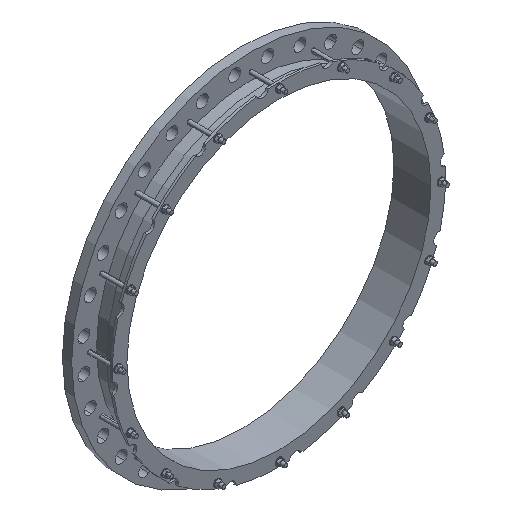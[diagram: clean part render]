
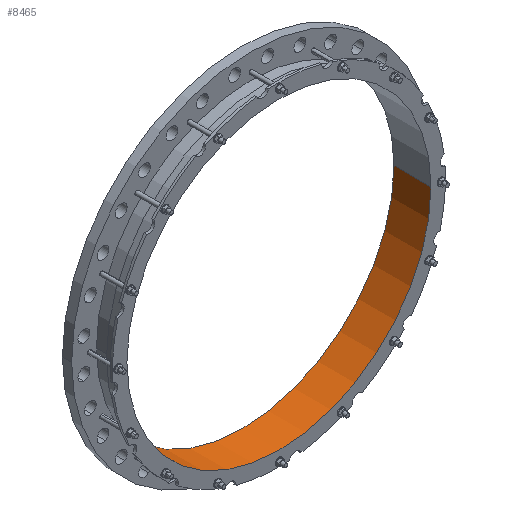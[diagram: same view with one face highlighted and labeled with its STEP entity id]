
A CAD part, isometric view. The second image highlights one B-rep face of the part: STEP entity #8465.
In plain terms, the highlighted cylindrical face has radius 628.75 mm (diameter 1257.5 mm), a partial arc.
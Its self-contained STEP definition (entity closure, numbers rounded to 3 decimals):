
#7=CARTESIAN_POINT('',(0.,38.,0.));
#8=DIRECTION('',(0.,1.,0.));
#9=DIRECTION('',(1.,0.,0.));
#10=AXIS2_PLACEMENT_3D('',#7,#8,#9);
#3501=CARTESIAN_POINT('',(0.,-115.,0.));
#3502=DIRECTION('',(0.,1.,0.));
#3503=DIRECTION('',(1.,0.,0.));
#3504=AXIS2_PLACEMENT_3D('',#3501,#3502,#3503);
#3506=DIRECTION('',(0.,1.,0.));
#3507=VECTOR('',#3506,153.);
#3508=CARTESIAN_POINT('',(628.75,-115.,0.));
#3509=LINE('',#3508,#3507);
#3510=DIRECTION('',(0.,1.,0.));
#3511=VECTOR('',#3510,153.);
#3512=CARTESIAN_POINT('',(-628.75,-115.,0.));
#3513=LINE('',#3512,#3511);
#5894=CARTESIAN_POINT('',(628.75,-115.,0.));
#5895=CARTESIAN_POINT('',(628.75,38.,0.));
#5896=VERTEX_POINT('',#5894);
#5897=VERTEX_POINT('',#5895);
#5902=CARTESIAN_POINT('',(-628.75,-115.,0.));
#5903=CARTESIAN_POINT('',(-628.75,38.,0.));
#5904=VERTEX_POINT('',#5902);
#5905=VERTEX_POINT('',#5903);
#8452=CARTESIAN_POINT('',(0.,-122.65,0.));
#8453=DIRECTION('',(0.,1.,0.));
#8454=DIRECTION('',(-1.,0.,0.));
#8455=AXIS2_PLACEMENT_3D('',#8452,#8453,#8454);
#8456=CYLINDRICAL_SURFACE('',#8455,628.75);
#8458=ORIENTED_EDGE('',*,*,#8457,.F.);
#8459=ORIENTED_EDGE('',*,*,#8445,.T.);
#8461=ORIENTED_EDGE('',*,*,#8460,.T.);
#8462=ORIENTED_EDGE('',*,*,#7109,.F.);
#8463=EDGE_LOOP('',(#8458,#8459,#8461,#8462));
#8464=FACE_OUTER_BOUND('',#8463,.F.);
#8465=ADVANCED_FACE('',(#8464),#8456,.F.);
#11=CIRCLE('',#10,628.75);
#3505=CIRCLE('',#3504,628.75);
#7109=EDGE_CURVE('',#5897,#5905,#11,.T.);
#8445=EDGE_CURVE('',#5896,#5904,#3505,.T.);
#8457=EDGE_CURVE('',#5896,#5897,#3509,.T.);
#8460=EDGE_CURVE('',#5904,#5905,#3513,.T.);
